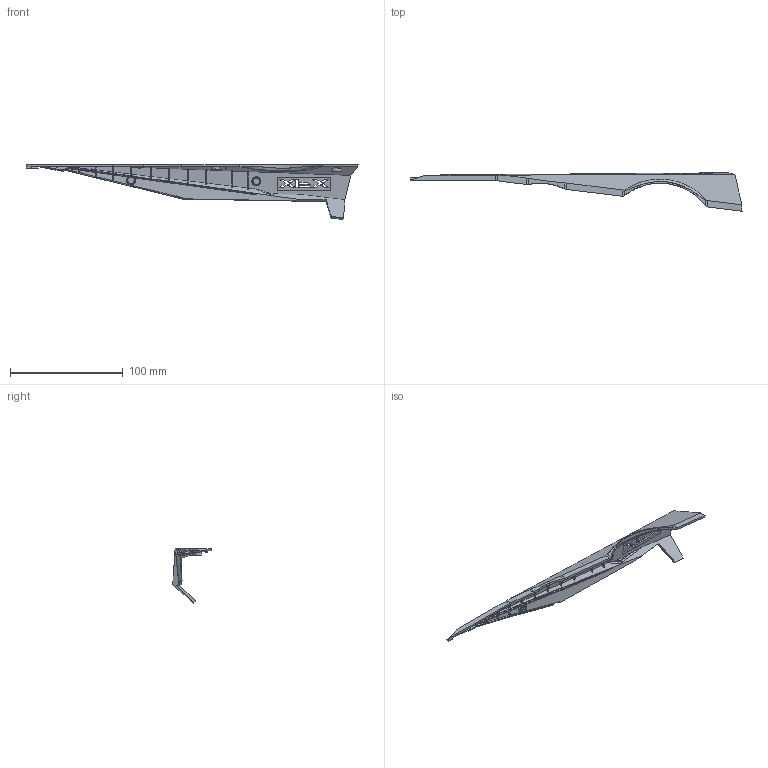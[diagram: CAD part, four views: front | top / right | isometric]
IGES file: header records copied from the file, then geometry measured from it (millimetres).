
Start section: SolidWorks IGES file using analytic representation for surfaces
Global section: file name: C:\Users\Automoton\Desktop\XFX SWFT 3D Printing Assets\SWFT 2025 Cutout Branding 3625.IGS; native system: SolidWorks 2023; preprocessor: SolidWorks 2023; author: Automoton; date: 250306.205623; units: millimetre
Bounding box: 294.4 x 34.16 x 48.6 mm (x, y, z)
Surface area: 22039.5 mm2 (no closed solid volume)
Topology: 0 solids, 0 shells, 301 faces, 2475 edges, 2471 vertices
Faces by surface type: bspline 267, revolution 34
